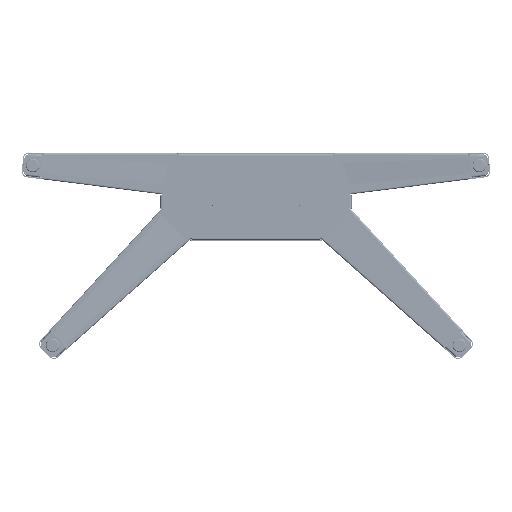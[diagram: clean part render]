
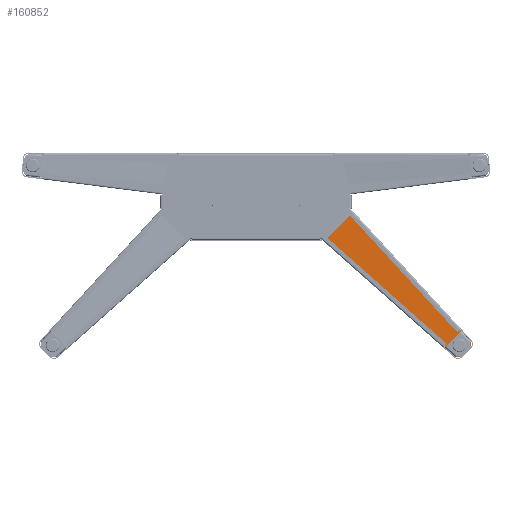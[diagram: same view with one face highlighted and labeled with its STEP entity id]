
A CAD part, left-side view. The second image highlights one B-rep face of the part: STEP entity #160852.
In plain terms, the highlighted planar face has unit normal (-0.999, 0.034, 0.033) as drawn and (0.034, -0.999, -0.033) by its records, which use the part's own axes.
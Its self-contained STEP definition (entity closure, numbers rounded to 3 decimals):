
#159180=DIRECTION('',(-0.676,-0.048,0.735));
#159181=VECTOR('',#159180,531.126);
#159182=CARTESIAN_POINT('',(-273.484,51.496,
28.513));
#159183=LINE('',#159182,#159181);
#159184=CARTESIAN_POINT('',(-632.63,26.187,
418.984));
#159185=CARTESIAN_POINT('',(-633.425,26.13,
419.869));
#159186=CARTESIAN_POINT('',(-634.593,26.027,
421.753));
#159187=CARTESIAN_POINT('',(-635.321,25.912,
424.437));
#159188=CARTESIAN_POINT('',(-635.27,25.809,
427.584));
#159189=CARTESIAN_POINT('',(-634.246,25.745,
430.494));
#159190=CARTESIAN_POINT('',(-633.083,25.736,
432.039));
#159191=CARTESIAN_POINT('',(-632.409,25.734,
432.772));
#159193=DIRECTION('',(0.701,0.,0.713));
#159194=VECTOR('',#159193,41.477);
#159195=CARTESIAN_POINT('',(-632.409,25.734,
432.772));
#159196=LINE('',#159195,#159194);
#159197=CARTESIAN_POINT('',(-603.337,25.733,
462.356));
#159198=CARTESIAN_POINT('',(-602.569,25.734,
463.109));
#159199=CARTESIAN_POINT('',(-600.92,25.749,
464.319));
#159200=CARTESIAN_POINT('',(-598.176,25.81,
465.292));
#159201=CARTESIAN_POINT('',(-595.104,25.911,
465.414));
#159202=CARTESIAN_POINT('',(-592.328,26.028,
464.746));
#159203=CARTESIAN_POINT('',(-590.468,26.13,
463.572));
#159204=CARTESIAN_POINT('',(-589.555,26.187,
462.815));
#159206=DIRECTION('',(0.747,0.048,-0.663));
#159207=VECTOR('',#159206,531.123);
#159208=CARTESIAN_POINT('',(-589.555,26.187,
462.815));
#159209=LINE('',#159208,#159207);
#159210=CARTESIAN_POINT('',(-192.88,51.496,
110.537));
#159211=CARTESIAN_POINT('',(-192.781,51.497,
110.62));
#159212=CARTESIAN_POINT('',(-192.586,51.498,
110.771));
#159213=CARTESIAN_POINT('',(-192.345,51.501,
110.962));
#159214=CARTESIAN_POINT('',(-192.15,51.502,
111.072));
#159215=CARTESIAN_POINT('',(-192.048,51.504,
111.113));
#159217=DIRECTION('',(-0.701,0.,
-0.713));
#159218=VECTOR('',#159217,115.997);
#159219=CARTESIAN_POINT('',(-192.048,51.504,
111.113));
#159220=LINE('',#159219,#159218);
#159221=CARTESIAN_POINT('',(-273.397,51.502,
28.423));
#159222=CARTESIAN_POINT('',(-273.406,51.502,
28.432));
#159223=CARTESIAN_POINT('',(-273.426,51.5,
28.452));
#159224=CARTESIAN_POINT('',(-273.454,51.498,
28.483));
#159225=CARTESIAN_POINT('',(-273.474,51.497,
28.503));
#159226=CARTESIAN_POINT('',(-273.484,51.496,
28.513));
#160464=CARTESIAN_POINT('',(-603.337,25.733,
462.356));
#160465=VERTEX_POINT('',#160464);
#160468=VERTEX_POINT('',#159204);
#160469=CARTESIAN_POINT('',(-273.484,51.496,
28.513));
#160470=CARTESIAN_POINT('',(-632.63,26.187,
418.984));
#160471=VERTEX_POINT('',#160469);
#160472=VERTEX_POINT('',#160470);
#160473=VERTEX_POINT('',#159191);
#160474=CARTESIAN_POINT('',(-192.88,51.496,
110.537));
#160475=VERTEX_POINT('',#160474);
#160476=VERTEX_POINT('',#159215);
#160477=CARTESIAN_POINT('',(-273.397,51.502,
28.423));
#160478=VERTEX_POINT('',#160477);
#160830=CARTESIAN_POINT('',(-285.641,51.503,
15.928));
#160831=DIRECTION('',(-0.034,0.999,0.033));
#160832=DIRECTION('',(-0.712,-0.048,0.7));
#160833=AXIS2_PLACEMENT_3D('',#160830,#160831,#160832);
#160834=PLANE('',#160833);
#160836=ORIENTED_EDGE('',*,*,#160835,.T.);
#160838=ORIENTED_EDGE('',*,*,#160837,.T.);
#160840=ORIENTED_EDGE('',*,*,#160839,.T.);
#160841=ORIENTED_EDGE('',*,*,#160821,.T.);
#160843=ORIENTED_EDGE('',*,*,#160842,.T.);
#160845=ORIENTED_EDGE('',*,*,#160844,.T.);
#160847=ORIENTED_EDGE('',*,*,#160846,.T.);
#160849=ORIENTED_EDGE('',*,*,#160848,.T.);
#160850=EDGE_LOOP('',(#160836,#160838,#160840,#160841,#160843,#160845,#160847,
#160849));
#160851=FACE_OUTER_BOUND('',#160850,.F.);
#160852=ADVANCED_FACE('',(#160851),#160834,.F.);
#159192=B_SPLINE_CURVE_WITH_KNOTS('',3,(#159184,#159185,#159186,#159187,#159188,
#159189,#159190,#159191),.UNSPECIFIED.,.F.,.F.,(4,1,1,1,1,4),(0.,0.2,0.4,
0.6,0.8,1.),.UNSPECIFIED.);
#159205=B_SPLINE_CURVE_WITH_KNOTS('',3,(#159197,#159198,#159199,#159200,#159201,
#159202,#159203,#159204),.UNSPECIFIED.,.F.,.F.,(4,1,1,1,1,4),(0.,0.2,0.4,
0.6,0.8,1.),.UNSPECIFIED.);
#159216=B_SPLINE_CURVE_WITH_KNOTS('',3,(#159210,#159211,#159212,#159213,#159214,
#159215),.UNSPECIFIED.,.F.,.F.,(4,1,1,4),(0.,0.333,
0.667,1.),.UNSPECIFIED.);
#159227=B_SPLINE_CURVE_WITH_KNOTS('',3,(#159221,#159222,#159223,#159224,#159225,
#159226),.UNSPECIFIED.,.F.,.F.,(4,1,1,4),(0.,0.333,
0.667,1.),.UNSPECIFIED.);
#160821=EDGE_CURVE('',#160465,#160468,#159205,.T.);
#160835=EDGE_CURVE('',#160471,#160472,#159183,.T.);
#160837=EDGE_CURVE('',#160472,#160473,#159192,.T.);
#160839=EDGE_CURVE('',#160473,#160465,#159196,.T.);
#160842=EDGE_CURVE('',#160468,#160475,#159209,.T.);
#160844=EDGE_CURVE('',#160475,#160476,#159216,.T.);
#160846=EDGE_CURVE('',#160476,#160478,#159220,.T.);
#160848=EDGE_CURVE('',#160478,#160471,#159227,.T.);
